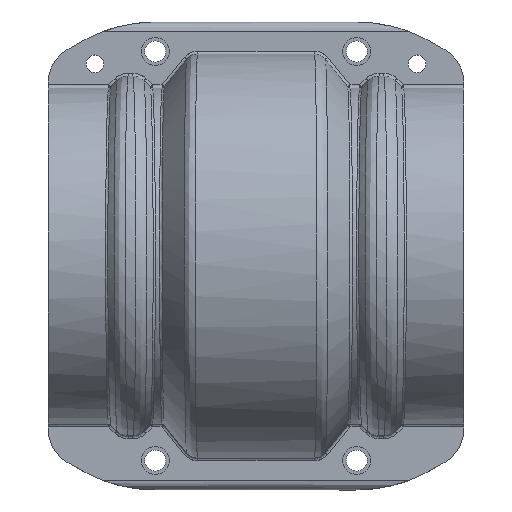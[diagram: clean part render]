
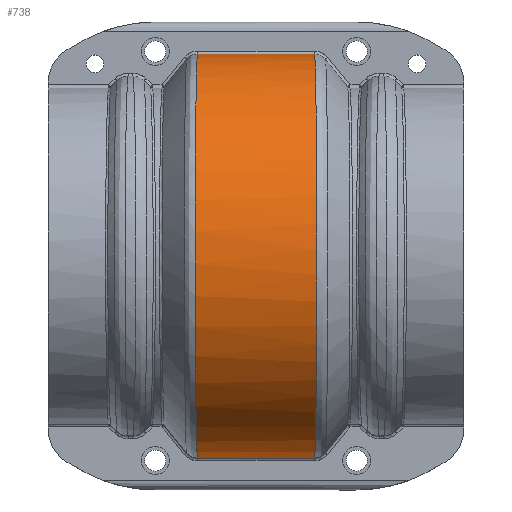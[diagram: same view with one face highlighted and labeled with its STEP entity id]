
A CAD part, top view. The second image highlights one B-rep face of the part: STEP entity #738.
In plain terms, the highlighted cylindrical face has radius 65.4 mm (diameter 130.8 mm), a partial arc.
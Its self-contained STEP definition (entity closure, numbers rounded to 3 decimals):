
#539=CYLINDRICAL_SURFACE('',#9565,65.4);
#738=ADVANCED_FACE('',(#1358),#539,.T.);
#1358=FACE_OUTER_BOUND('',#1858,.T.);
#1858=EDGE_LOOP('',(#3759,#3760,#3761,#3762,#3763,#3764,#3765,#3766));
#2977=B_SPLINE_CURVE_WITH_KNOTS('',3,(#14629,#14630,#14631,#14632,#14633,
#14634,#14635,#14636,#14637,#14638,#14639,#14640,#14641,#14642,#14643,#14644,
#14645,#14646,#14647,#14648,#14649,#14650,#14651,#14652,#14653,#14654,#14655,
#14656,#14657,#14658,#14659,#14660,#14661,#14662,#14663,#14664,#14665,#14666,
#14667,#14668,#14669,#14670),.UNSPECIFIED.,.F.,.F.,(4,2,2,2,2,2,2,2,2,2,
2,2,2,2,2,2,2,2,2,2,4),(0.,0.057,0.12,0.183,
0.247,0.278,0.31,0.373,
0.437,0.5,0.564,0.595,
0.627,0.69,0.754,0.817,0.849,
0.88,0.944,0.975,1.),.UNSPECIFIED.);
#2982=B_SPLINE_CURVE_WITH_KNOTS('',3,(#14997,#14998,#14999,#15000,#15001,
#15002,#15003,#15004,#15005,#15006,#15007,#15008,#15009,#15010,#15011,#15012,
#15013,#15014),.UNSPECIFIED.,.F.,.F.,(4,2,2,2,2,2,2,2,4),(0.,0.125,0.25,
0.375,0.5,0.625,0.75,0.875,1.),.UNSPECIFIED.);
#2983=B_SPLINE_CURVE_WITH_KNOTS('',3,(#15017,#15018,#15019,#15020,#15021,
#15022),.UNSPECIFIED.,.F.,.F.,(4,2,4),(0.,0.184,1.),
 .UNSPECIFIED.);
#2984=B_SPLINE_CURVE_WITH_KNOTS('',3,(#15026,#15027,#15028,#15029),
 .UNSPECIFIED.,.F.,.F.,(4,4),(0.,1.),.UNSPECIFIED.);
#2985=B_SPLINE_CURVE_WITH_KNOTS('',3,(#15030,#15031,#15032,#15033,#15034,
#15035),.UNSPECIFIED.,.F.,.F.,(4,2,4),(0.,0.184,1.),
 .UNSPECIFIED.);
#2986=B_SPLINE_CURVE_WITH_KNOTS('',3,(#15039,#15040,#15041,#15042),
 .UNSPECIFIED.,.F.,.F.,(4,4),(0.,1.),.UNSPECIFIED.);
#3759=ORIENTED_EDGE('',*,*,#7490,.T.);
#3760=ORIENTED_EDGE('',*,*,#7491,.F.);
#3761=ORIENTED_EDGE('',*,*,#7492,.T.);
#3762=ORIENTED_EDGE('',*,*,#7493,.F.);
#3763=ORIENTED_EDGE('',*,*,#7485,.F.);
#3764=ORIENTED_EDGE('',*,*,#7494,.F.);
#3765=ORIENTED_EDGE('',*,*,#7495,.T.);
#3766=ORIENTED_EDGE('',*,*,#7496,.F.);
#6531=VERTEX_POINT('',#14671);
#6532=VERTEX_POINT('',#14672);
#6535=VERTEX_POINT('',#15015);
#6536=VERTEX_POINT('',#15016);
#6537=VERTEX_POINT('',#15023);
#6538=VERTEX_POINT('',#15025);
#6539=VERTEX_POINT('',#15036);
#6540=VERTEX_POINT('',#15038);
#7485=EDGE_CURVE('',#6531,#6532,#2977,.T.);
#7490=EDGE_CURVE('',#6535,#6536,#2982,.T.);
#7491=EDGE_CURVE('',#6537,#6536,#2983,.T.);
#7492=EDGE_CURVE('',#6537,#6538,#8761,.T.);
#7493=EDGE_CURVE('',#6532,#6538,#2984,.T.);
#7494=EDGE_CURVE('',#6539,#6531,#2985,.T.);
#7495=EDGE_CURVE('',#6539,#6540,#8762,.T.);
#7496=EDGE_CURVE('',#6535,#6540,#2986,.T.);
#8761=LINE('',#15024,#9129);
#8762=LINE('',#15037,#9130);
#9129=VECTOR('',#10454,1.);
#9130=VECTOR('',#10455,1.);
#9565=AXIS2_PLACEMENT_3D('',#15043,#10456,#10457);
#10454=DIRECTION('',(-1.,0.,0.));
#10455=DIRECTION('',(1.,0.,0.));
#10456=DIRECTION('',(-1.,0.,0.));
#10457=DIRECTION('',(0.,0.,-1.));
#14629=CARTESIAN_POINT('',(-18.909,-65.135,4.879));
#14630=CARTESIAN_POINT('',(-18.954,-64.809,8.503));
#14631=CARTESIAN_POINT('',(-18.998,-64.181,12.094));
#14632=CARTESIAN_POINT('',(-19.092,-62.197,19.629));
#14633=CARTESIAN_POINT('',(-19.14,-60.779,23.487));
#14634=CARTESIAN_POINT('',(-19.232,-57.276,30.831));
#14635=CARTESIAN_POINT('',(-19.276,-55.172,34.357));
#14636=CARTESIAN_POINT('',(-19.359,-50.305,40.994));
#14637=CARTESIAN_POINT('',(-19.397,-47.595,44.038));
#14638=CARTESIAN_POINT('',(-19.449,-43.131,48.204));
#14639=CARTESIAN_POINT('',(-19.466,-41.575,49.526));
#14640=CARTESIAN_POINT('',(-19.497,-38.327,52.032));
#14641=CARTESIAN_POINT('',(-19.512,-36.629,53.218));
#14642=CARTESIAN_POINT('',(-19.553,-31.434,56.496));
#14643=CARTESIAN_POINT('',(-19.576,-27.805,58.336));
#14644=CARTESIAN_POINT('',(-19.614,-20.215,61.331));
#14645=CARTESIAN_POINT('',(-19.629,-16.223,62.488));
#14646=CARTESIAN_POINT('',(-19.648,-8.184,64.015));
#14647=CARTESIAN_POINT('',(-19.653,-4.111,64.401));
#14648=CARTESIAN_POINT('',(-19.653,4.143,64.399));
#14649=CARTESIAN_POINT('',(-19.648,8.205,64.011));
#14650=CARTESIAN_POINT('',(-19.633,14.207,62.871));
#14651=CARTESIAN_POINT('',(-19.627,16.192,62.397));
#14652=CARTESIAN_POINT('',(-19.613,20.13,61.259));
#14653=CARTESIAN_POINT('',(-19.605,22.091,60.59));
#14654=CARTESIAN_POINT('',(-19.576,27.81,58.334));
#14655=CARTESIAN_POINT('',(-19.553,31.44,56.492));
#14656=CARTESIAN_POINT('',(-19.498,38.337,52.142));
#14657=CARTESIAN_POINT('',(-19.467,41.63,49.604));
#14658=CARTESIAN_POINT('',(-19.397,47.601,44.033));
#14659=CARTESIAN_POINT('',(-19.359,50.304,40.992));
#14660=CARTESIAN_POINT('',(-19.297,53.934,36.047));
#14661=CARTESIAN_POINT('',(-19.275,55.078,34.324));
#14662=CARTESIAN_POINT('',(-19.231,57.186,30.798));
#14663=CARTESIAN_POINT('',(-19.209,58.151,28.996));
#14664=CARTESIAN_POINT('',(-19.14,60.781,23.482));
#14665=CARTESIAN_POINT('',(-19.093,62.187,19.66));
#14666=CARTESIAN_POINT('',(-19.018,63.759,13.701));
#14667=CARTESIAN_POINT('',(-18.993,64.192,11.679));
#14668=CARTESIAN_POINT('',(-18.949,64.785,8.091));
#14669=CARTESIAN_POINT('',(-18.929,64.986,6.518));
#14670=CARTESIAN_POINT('',(-18.91,65.13,4.941));
#14671=CARTESIAN_POINT('',(-18.909,-65.135,4.879));
#14672=CARTESIAN_POINT('',(-18.91,65.13,4.941));
#14997=CARTESIAN_POINT('',(18.91,-65.13,4.941));
#14998=CARTESIAN_POINT('',(19.034,-64.218,14.93));
#14999=CARTESIAN_POINT('',(19.142,-61.038,24.168));
#15000=CARTESIAN_POINT('',(19.328,-51.91,39.798));
#15001=CARTESIAN_POINT('',(19.405,-45.982,46.201));
#15002=CARTESIAN_POINT('',(19.529,-33.131,55.962));
#15003=CARTESIAN_POINT('',(19.575,-26.215,59.334));
#15004=CARTESIAN_POINT('',(19.637,-12.68,63.549));
#15005=CARTESIAN_POINT('',(19.653,-6.054,64.404));
#15006=CARTESIAN_POINT('',(19.653,6.147,64.396));
#15007=CARTESIAN_POINT('',(19.637,12.76,63.533));
#15008=CARTESIAN_POINT('',(19.575,26.282,59.304));
#15009=CARTESIAN_POINT('',(19.528,33.191,55.926));
#15010=CARTESIAN_POINT('',(19.405,46.028,46.155));
#15011=CARTESIAN_POINT('',(19.327,51.949,39.748));
#15012=CARTESIAN_POINT('',(19.141,61.061,24.111));
#15013=CARTESIAN_POINT('',(19.033,64.233,14.87));
#15014=CARTESIAN_POINT('',(18.909,65.135,4.879));
#15015=CARTESIAN_POINT('',(18.91,-65.13,4.941));
#15016=CARTESIAN_POINT('',(18.909,65.135,4.879));
#15017=CARTESIAN_POINT('',(18.843,65.132,4.91));
#15018=CARTESIAN_POINT('',(18.847,65.133,4.908));
#15019=CARTESIAN_POINT('',(18.851,65.133,4.906));
#15020=CARTESIAN_POINT('',(18.873,65.134,4.896));
#15021=CARTESIAN_POINT('',(18.891,65.134,4.887));
#15022=CARTESIAN_POINT('',(18.909,65.135,4.879));
#15023=CARTESIAN_POINT('',(18.843,65.132,4.91));
#15024=CARTESIAN_POINT('',(70.,65.132,4.91));
#15025=CARTESIAN_POINT('',(-18.843,65.132,4.91));
#15026=CARTESIAN_POINT('',(-18.91,65.13,4.941));
#15027=CARTESIAN_POINT('',(-18.887,65.131,4.93));
#15028=CARTESIAN_POINT('',(-18.865,65.132,4.92));
#15029=CARTESIAN_POINT('',(-18.843,65.132,4.91));
#15030=CARTESIAN_POINT('',(-18.843,-65.132,4.91));
#15031=CARTESIAN_POINT('',(-18.847,-65.133,4.908));
#15032=CARTESIAN_POINT('',(-18.851,-65.133,4.906));
#15033=CARTESIAN_POINT('',(-18.873,-65.134,4.896));
#15034=CARTESIAN_POINT('',(-18.891,-65.134,4.887));
#15035=CARTESIAN_POINT('',(-18.909,-65.135,4.879));
#15036=CARTESIAN_POINT('',(-18.843,-65.132,4.91));
#15037=CARTESIAN_POINT('',(70.,-65.132,4.91));
#15038=CARTESIAN_POINT('',(18.843,-65.132,4.91));
#15039=CARTESIAN_POINT('',(18.91,-65.13,4.941));
#15040=CARTESIAN_POINT('',(18.887,-65.131,4.93));
#15041=CARTESIAN_POINT('',(18.865,-65.132,4.92));
#15042=CARTESIAN_POINT('',(18.843,-65.132,4.91));
#15043=CARTESIAN_POINT('',(70.,0.,-1.));
